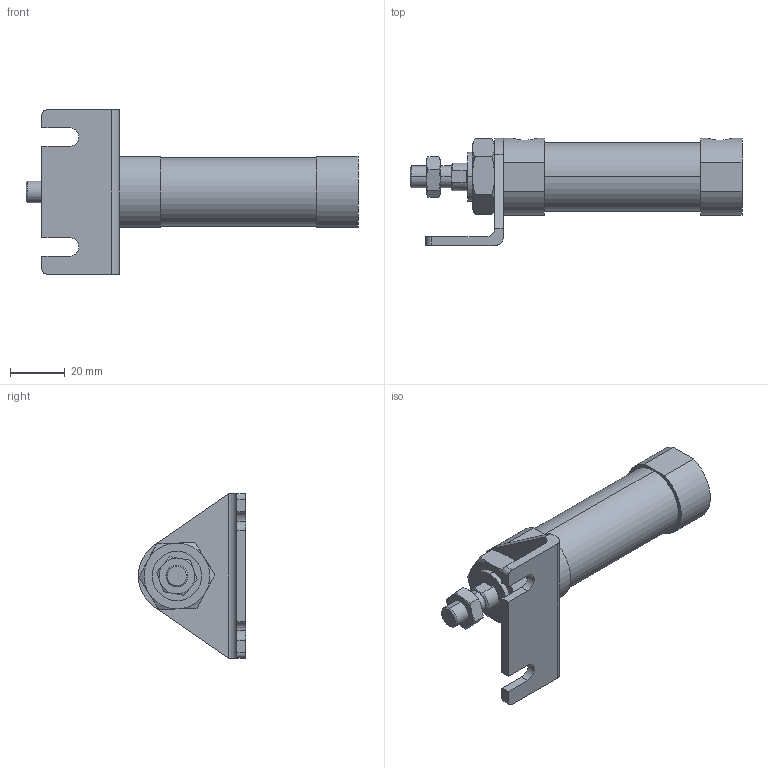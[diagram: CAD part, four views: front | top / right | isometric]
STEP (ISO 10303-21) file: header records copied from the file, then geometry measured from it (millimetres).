
FILE_DESCRIPTION (( 'STEP AP203' ), '1' );
FILE_NAME ('JGND2-20-25-L.STEP', '2016-08-04T02:21:35', ( '' ), ( '' ), 'SwSTEP 2.0', 'SolidWorks 2014', '' );
FILE_SCHEMA (( 'CONFIG_CONTROL_DESIGN' ));
Length unit declared in the file: millimetre
Products named in the file (5): J#2-20-L; J#2-20-25(P); JGND2-20-25-L
Assembly tree (4 placements, depth 2):
  JGND2-20-25-L
    J#2-20-25(P)
    (unnamed)
    (unnamed)
    J#2-20-L
Bounding box: 121 x 39 x 60 mm (x, y, z)
Volume: 60257.7 mm3; surface area: 18798.8 mm2
Topology: 4 solids, 4 shells, 111 faces, 255 edges, 160 vertices
Faces by surface type: plane 49, cylinder 34, torus 24, cone 4
Entity records: 4004 total; most frequent: CARTESIAN_POINT 989, DIRECTION 531, ORIENTED_EDGE 510, EDGE_CURVE 255, AXIS2_PLACEMENT_3D 214, VERTEX_POINT 160, EDGE_LOOP 125, FACE_OUTER_BOUND 111
